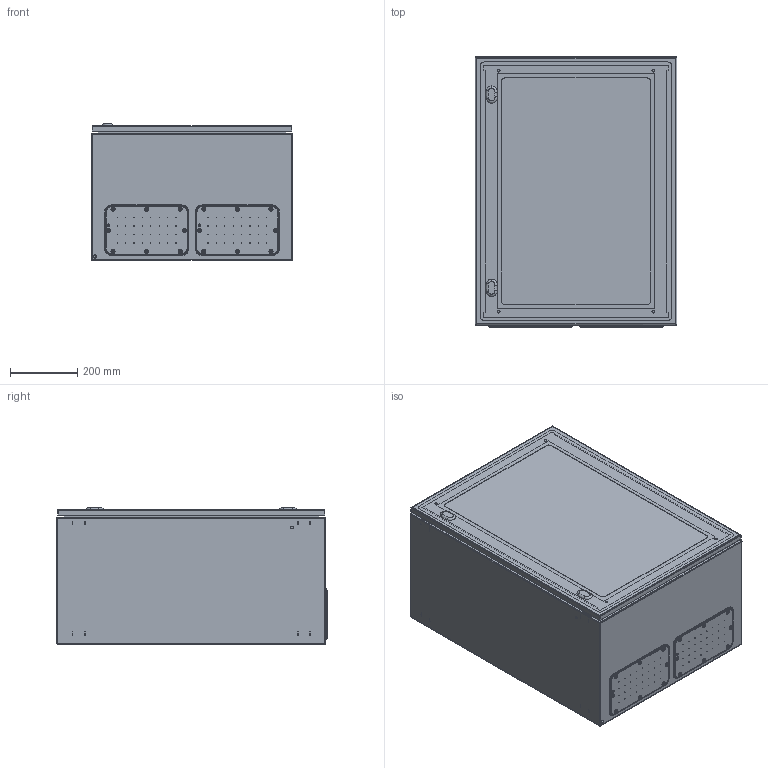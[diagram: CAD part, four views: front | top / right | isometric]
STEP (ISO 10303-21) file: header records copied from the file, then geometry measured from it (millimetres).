
FILE_DESCRIPTION (( 'STEP AP203' ), '1' );
FILE_NAME ('APRO06840BVC.STEP', '2022-01-05T14:12:04', ( '' ), ( '' ), 'SwSTEP 2.0', 'SolidWorks 2021', '' );
FILE_SCHEMA (( 'CONFIG_CONTROL_DESIGN' ));
Length unit declared in the file: millimetre
Products named in the file (8): AR_ECOR_chiusura_std_STD; 03008060001_06; AR_ECOR_flangia IC_03; APRO06840BVC; AR_BOX ABACUS PRO_involucro_0600x0800x0400; AR_ECOR_porta_singola_vetro_0600x0800; 03008080701_06; AR_ECOR_montaggio_porta_singola_vetro_0600x0800
Assembly tree (13 placements, depth 3):
  APRO06840BVC
    AR_BOX ABACUS PRO_involucro_0600x0800x0400
    AR_ECOR_montaggio_porta_singola_vetro_0600x0800
      AR_ECOR_porta_singola_vetro_0600x0800
      AR_ECOR_chiusura_std_STD  x2
    AR_ECOR_flangia IC_03  x2
    03008060001_06  x4
    03008080701_06  x2
Bounding box: 600 x 804 x 405 mm (x, y, z)
Volume: 4600461.7 mm3; surface area: 5043921.1 mm2
Topology: 13 solids, 13 shells, 4058 faces, 11186 edges, 7012 vertices
Faces by surface type: plane 2412, cylinder 1372, cone 112, torus 78, bspline 68, sphere 16
Entity records: 61763 total; most frequent: CARTESIAN_POINT 11667, DIRECTION 10260, ORIENTED_EDGE 10190, EDGE_CURVE 5095, VECTOR 3420, LINE 3420, AXIS2_PLACEMENT_3D 3420, VERTEX_POINT 3248
